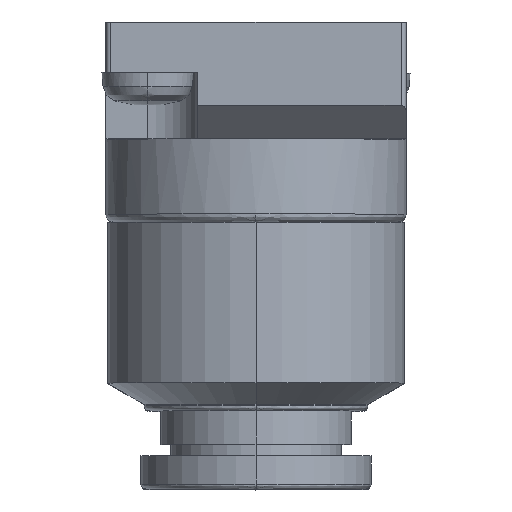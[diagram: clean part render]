
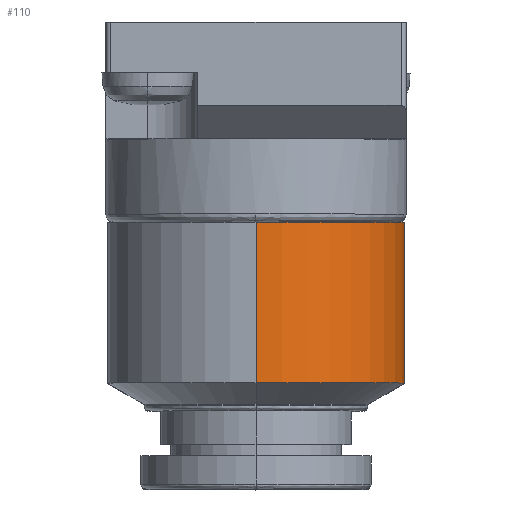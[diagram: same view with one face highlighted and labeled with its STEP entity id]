
A CAD part, top view. The second image highlights one B-rep face of the part: STEP entity #110.
In plain terms, the highlighted cylindrical face has radius 8.9 mm (diameter 17.8 mm), a partial arc.
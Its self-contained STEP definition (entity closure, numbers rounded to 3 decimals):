
#110=ADVANCED_FACE('',(#855),#854,.T.);
#854=CYLINDRICAL_SURFACE('',#1761,8.9);
#855=FACE_OUTER_BOUND('',#1762,.T.);
#1758=CARTESIAN_POINT('',(0.,0.,9.5));
#1759=DIRECTION('',(0.,1.,0.));
#1760=DIRECTION('',(0.,0.,1.));
#1761=AXIS2_PLACEMENT_3D('',#1758,#1759,#1760);
#1762=EDGE_LOOP('',(#2472,#2473,#2474,#2475));
#2472=ORIENTED_EDGE('',*,*,#2733,.T.);
#2473=ORIENTED_EDGE('',*,*,#2812,.F.);
#2474=ORIENTED_EDGE('',*,*,#2775,.F.);
#2475=ORIENTED_EDGE('',*,*,#2813,.T.);
#2733=EDGE_CURVE('',#3689,#3688,#3696,.T.);
#2775=EDGE_CURVE('',#3955,#3954,#3988,.T.);
#2812=EDGE_CURVE('',#3954,#3688,#4228,.T.);
#2813=EDGE_CURVE('',#3955,#3689,#4234,.T.);
#3688=VERTEX_POINT('',#5021);
#3689=VERTEX_POINT('',#5022);
#3696=CIRCLE('',#5030,8.9);
#3954=VERTEX_POINT('',#5211);
#3955=VERTEX_POINT('',#5212);
#3988=CIRCLE('',#5234,8.9);
#4228=(BOUNDED_CURVE() B_SPLINE_CURVE(1,(#5371,#5372),.UNSPECIFIED.,.F.,.F.) B_SPLINE_CURVE_WITH_KNOTS((2,2),(0.083,0.917),.UNSPECIFIED.) CURVE() GEOMETRIC_REPRESENTATION_ITEM() RATIONAL_B_SPLINE_CURVE((1.,1.)) REPRESENTATION_ITEM('') );
#4234=(BOUNDED_CURVE() B_SPLINE_CURVE(1,(#5373,#5374),.UNSPECIFIED.,.F.,.F.) B_SPLINE_CURVE_WITH_KNOTS((2,2),(0.083,0.917),.UNSPECIFIED.) CURVE() GEOMETRIC_REPRESENTATION_ITEM() RATIONAL_B_SPLINE_CURVE((0.75,0.75)) REPRESENTATION_ITEM('') );
#5021=CARTESIAN_POINT('',(0.,-12.,18.4));
#5022=CARTESIAN_POINT('',(0.,-12.,0.6));
#5027=CARTESIAN_POINT('',(0.,-12.,9.5));
#5028=DIRECTION('',(0.,-1.,0.));
#5029=DIRECTION('',(0.,0.,-1.));
#5030=AXIS2_PLACEMENT_3D('',#5027,#5028,#5029);
#5211=CARTESIAN_POINT('',(0.,-21.63,18.4));
#5212=CARTESIAN_POINT('',(0.,-21.63,0.6));
#5231=CARTESIAN_POINT('',(0.,-21.63,9.5));
#5232=DIRECTION('',(0.,-1.,0.));
#5233=DIRECTION('',(0.,0.,-1.));
#5234=AXIS2_PLACEMENT_3D('',#5231,#5232,#5233);
#5371=CARTESIAN_POINT('',(0.,-21.63,18.4));
#5372=CARTESIAN_POINT('',(0.,-12.,18.4));
#5373=CARTESIAN_POINT('',(0.,-21.63,0.6));
#5374=CARTESIAN_POINT('',(0.,-12.,0.6));
